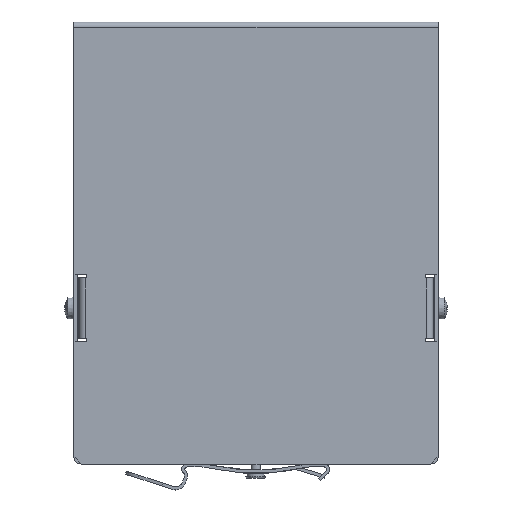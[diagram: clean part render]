
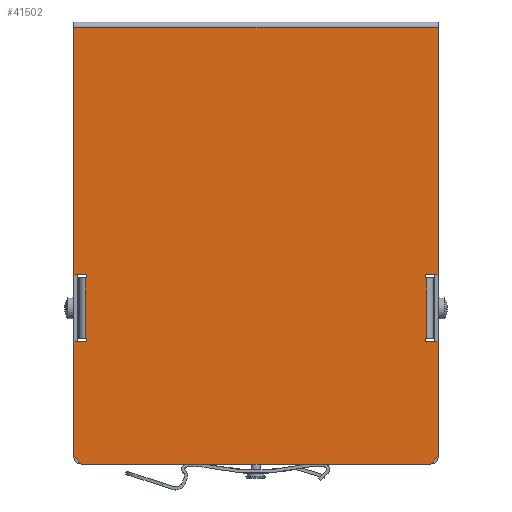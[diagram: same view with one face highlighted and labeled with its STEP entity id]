
A CAD part, front view. The second image highlights one B-rep face of the part: STEP entity #41502.
In plain terms, the highlighted planar face has unit normal (0, -1, 0) as drawn and (0, 0, -1) by its records, which use the part's own axes.
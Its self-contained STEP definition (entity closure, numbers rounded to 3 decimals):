
#3232=LINE('',#57064,#7675);
#3238=LINE('',#57075,#7681);
#3259=LINE('',#57119,#7702);
#3262=LINE('',#57124,#7705);
#3264=LINE('',#57128,#7707);
#3265=LINE('',#57130,#7708);
#3266=LINE('',#57132,#7709);
#3267=LINE('',#57134,#7710);
#3268=LINE('',#57136,#7711);
#3269=LINE('',#57138,#7712);
#3270=LINE('',#57140,#7713);
#3271=LINE('',#57142,#7714);
#3272=LINE('',#57144,#7715);
#3273=LINE('',#57146,#7716);
#3274=LINE('',#57148,#7717);
#3275=LINE('',#57150,#7718);
#3276=LINE('',#57152,#7719);
#3277=LINE('',#57154,#7720);
#3278=LINE('',#57156,#7721);
#3279=LINE('',#57158,#7722);
#3280=LINE('',#57159,#7723);
#3281=LINE('',#57160,#7724);
#7675=VECTOR('',#47549,2.828);
#7681=VECTOR('',#47557,29.2);
#7702=VECTOR('',#47582,2.828);
#7705=VECTOR('',#47587,29.2);
#7707=VECTOR('',#47591,3.2);
#7708=VECTOR('',#47592,0.8);
#7709=VECTOR('',#47593,0.4);
#7710=VECTOR('',#47594,15.4);
#7711=VECTOR('',#47595,0.4);
#7712=VECTOR('',#47596,0.8);
#7713=VECTOR('',#47597,3.2);
#7714=VECTOR('',#47598,62.9);
#7715=VECTOR('',#47599,92.5);
#7716=VECTOR('',#47600,62.9);
#7717=VECTOR('',#47601,3.2);
#7718=VECTOR('',#47602,0.8);
#7719=VECTOR('',#47603,0.4);
#7720=VECTOR('',#47604,15.4);
#7721=VECTOR('',#47605,0.4);
#7722=VECTOR('',#47606,0.8);
#7723=VECTOR('',#47607,3.2);
#7724=VECTOR('',#47608,88.5);
#11566=PLANE('',#43989);
#13523=FACE_OUTER_BOUND('',#16021,.T.);
#16021=EDGE_LOOP('',(#30622,#30623,#30624,#30625,#30626,#30627,#30628,#30629,
#30630,#30631,#30632,#30633,#30634,#30635,#30636,#30637,#30638,#30639,#30640,
#30641,#30642,#30643));
#19420=VERTEX_POINT('',#57062);
#19421=VERTEX_POINT('',#57063);
#19425=VERTEX_POINT('',#57073);
#19445=VERTEX_POINT('',#57117);
#19446=VERTEX_POINT('',#57118);
#19447=VERTEX_POINT('',#57123);
#19448=VERTEX_POINT('',#57127);
#19449=VERTEX_POINT('',#57129);
#19450=VERTEX_POINT('',#57131);
#19451=VERTEX_POINT('',#57133);
#19452=VERTEX_POINT('',#57135);
#19453=VERTEX_POINT('',#57137);
#19454=VERTEX_POINT('',#57139);
#19455=VERTEX_POINT('',#57141);
#19456=VERTEX_POINT('',#57143);
#19457=VERTEX_POINT('',#57145);
#19458=VERTEX_POINT('',#57147);
#19459=VERTEX_POINT('',#57149);
#19460=VERTEX_POINT('',#57151);
#19461=VERTEX_POINT('',#57153);
#19462=VERTEX_POINT('',#57155);
#19463=VERTEX_POINT('',#57157);
#23741=EDGE_CURVE('',#19420,#19421,#3232,.T.);
#23747=EDGE_CURVE('',#19420,#19425,#3238,.T.);
#23768=EDGE_CURVE('',#19445,#19446,#3259,.T.);
#23771=EDGE_CURVE('',#19446,#19447,#3262,.T.);
#23773=EDGE_CURVE('',#19425,#19448,#3264,.T.);
#23774=EDGE_CURVE('',#19448,#19449,#3265,.T.);
#23775=EDGE_CURVE('',#19449,#19450,#3266,.T.);
#23776=EDGE_CURVE('',#19450,#19451,#3267,.T.);
#23777=EDGE_CURVE('',#19451,#19452,#3268,.T.);
#23778=EDGE_CURVE('',#19452,#19453,#3269,.T.);
#23779=EDGE_CURVE('',#19453,#19454,#3270,.T.);
#23780=EDGE_CURVE('',#19454,#19455,#3271,.T.);
#23781=EDGE_CURVE('',#19455,#19456,#3272,.T.);
#23782=EDGE_CURVE('',#19457,#19456,#3273,.T.);
#23783=EDGE_CURVE('',#19457,#19458,#3274,.T.);
#23784=EDGE_CURVE('',#19458,#19459,#3275,.T.);
#23785=EDGE_CURVE('',#19459,#19460,#3276,.T.);
#23786=EDGE_CURVE('',#19460,#19461,#3277,.T.);
#23787=EDGE_CURVE('',#19461,#19462,#3278,.T.);
#23788=EDGE_CURVE('',#19462,#19463,#3279,.T.);
#23789=EDGE_CURVE('',#19463,#19447,#3280,.T.);
#23790=EDGE_CURVE('',#19421,#19445,#3281,.T.);
#30622=ORIENTED_EDGE('',*,*,#23741,.F.);
#30623=ORIENTED_EDGE('',*,*,#23747,.T.);
#30624=ORIENTED_EDGE('',*,*,#23773,.T.);
#30625=ORIENTED_EDGE('',*,*,#23774,.T.);
#30626=ORIENTED_EDGE('',*,*,#23775,.T.);
#30627=ORIENTED_EDGE('',*,*,#23776,.T.);
#30628=ORIENTED_EDGE('',*,*,#23777,.T.);
#30629=ORIENTED_EDGE('',*,*,#23778,.T.);
#30630=ORIENTED_EDGE('',*,*,#23779,.T.);
#30631=ORIENTED_EDGE('',*,*,#23780,.T.);
#30632=ORIENTED_EDGE('',*,*,#23781,.T.);
#30633=ORIENTED_EDGE('',*,*,#23782,.F.);
#30634=ORIENTED_EDGE('',*,*,#23783,.T.);
#30635=ORIENTED_EDGE('',*,*,#23784,.T.);
#30636=ORIENTED_EDGE('',*,*,#23785,.T.);
#30637=ORIENTED_EDGE('',*,*,#23786,.T.);
#30638=ORIENTED_EDGE('',*,*,#23787,.T.);
#30639=ORIENTED_EDGE('',*,*,#23788,.T.);
#30640=ORIENTED_EDGE('',*,*,#23789,.T.);
#30641=ORIENTED_EDGE('',*,*,#23771,.F.);
#30642=ORIENTED_EDGE('',*,*,#23768,.F.);
#30643=ORIENTED_EDGE('',*,*,#23790,.F.);
#41502=ADVANCED_FACE('',(#13523),#11566,.T.);
#43989=AXIS2_PLACEMENT_3D('',#57126,#47589,#47590);
#47549=DIRECTION('',(0.707,0.707,0.));
#47557=DIRECTION('',(-1.,0.,0.));
#47582=DIRECTION('',(-0.707,0.707,0.));
#47587=DIRECTION('',(-1.,0.,0.));
#47589=DIRECTION('center_axis',(0.,0.,-1.));
#47590=DIRECTION('ref_axis',(-1.,0.,0.));
#47591=DIRECTION('',(0.,1.,0.));
#47592=DIRECTION('',(-1.,0.,0.));
#47593=DIRECTION('',(0.,-1.,0.));
#47594=DIRECTION('',(-1.,0.,0.));
#47595=DIRECTION('',(0.,1.,0.));
#47596=DIRECTION('',(-1.,0.,0.));
#47597=DIRECTION('',(0.,-1.,0.));
#47598=DIRECTION('',(-1.,0.,0.));
#47599=DIRECTION('',(0.,1.,0.));
#47600=DIRECTION('',(-1.,0.,0.));
#47601=DIRECTION('',(0.,-1.,0.));
#47602=DIRECTION('',(1.,0.,0.));
#47603=DIRECTION('',(0.,1.,0.));
#47604=DIRECTION('',(1.,0.,0.));
#47605=DIRECTION('',(0.,-1.,0.));
#47606=DIRECTION('',(1.,0.,0.));
#47607=DIRECTION('',(0.,1.,0.));
#47608=DIRECTION('',(0.,1.,0.));
#57062=CARTESIAN_POINT('',(-2.,0.,-59.2));
#57063=CARTESIAN_POINT('',(0.,2.,-59.2));
#57064=CARTESIAN_POINT('',(-1.,1.,-59.2));
#57073=CARTESIAN_POINT('',(-31.2,0.,-59.2));
#57075=CARTESIAN_POINT('',(0.,0.,-59.2));
#57117=CARTESIAN_POINT('',(0.,90.5,-59.2));
#57118=CARTESIAN_POINT('',(-2.,92.5,-59.2));
#57119=CARTESIAN_POINT('',(22.125,68.375,-59.2));
#57123=CARTESIAN_POINT('',(-31.2,92.5,-59.2));
#57124=CARTESIAN_POINT('',(0.,92.5,-59.2));
#57126=CARTESIAN_POINT('Origin',(0.,0.,-59.2));
#57127=CARTESIAN_POINT('',(-31.2,3.2,-59.2));
#57128=CARTESIAN_POINT('',(-31.2,0.6,-59.2));
#57129=CARTESIAN_POINT('',(-32.,3.2,-59.2));
#57130=CARTESIAN_POINT('',(-16.,3.2,-59.2));
#57131=CARTESIAN_POINT('',(-32.,2.8,-59.2));
#57132=CARTESIAN_POINT('',(-32.,0.6,-59.2));
#57133=CARTESIAN_POINT('',(-47.4,2.8,-59.2));
#57134=CARTESIAN_POINT('',(-23.7,2.8,-59.2));
#57135=CARTESIAN_POINT('',(-47.4,3.2,-59.2));
#57136=CARTESIAN_POINT('',(-47.4,1.6,-59.2));
#57137=CARTESIAN_POINT('',(-48.2,3.2,-59.2));
#57138=CARTESIAN_POINT('',(-24.1,3.2,-59.2));
#57139=CARTESIAN_POINT('',(-48.2,0.,-59.2));
#57140=CARTESIAN_POINT('',(-48.2,0.6,-59.2));
#57141=CARTESIAN_POINT('',(-111.1,0.,-59.2));
#57142=CARTESIAN_POINT('',(0.,0.,-59.2));
#57143=CARTESIAN_POINT('',(-111.1,92.5,-59.2));
#57144=CARTESIAN_POINT('',(-111.1,0.,-59.2));
#57145=CARTESIAN_POINT('',(-48.2,92.5,-59.2));
#57146=CARTESIAN_POINT('',(0.,92.5,-59.2));
#57147=CARTESIAN_POINT('',(-48.2,89.3,-59.2));
#57148=CARTESIAN_POINT('',(-48.2,45.65,-59.2));
#57149=CARTESIAN_POINT('',(-47.4,89.3,-59.2));
#57150=CARTESIAN_POINT('',(-24.1,89.3,-59.2));
#57151=CARTESIAN_POINT('',(-47.4,89.7,-59.2));
#57152=CARTESIAN_POINT('',(-47.4,44.65,-59.2));
#57153=CARTESIAN_POINT('',(-32.,89.7,-59.2));
#57154=CARTESIAN_POINT('',(-23.7,89.7,-59.2));
#57155=CARTESIAN_POINT('',(-32.,89.3,-59.2));
#57156=CARTESIAN_POINT('',(-32.,45.65,-59.2));
#57157=CARTESIAN_POINT('',(-31.2,89.3,-59.2));
#57158=CARTESIAN_POINT('',(-16.,89.3,-59.2));
#57159=CARTESIAN_POINT('',(-31.2,44.65,-59.2));
#57160=CARTESIAN_POINT('',(0.,0.,-59.2));
